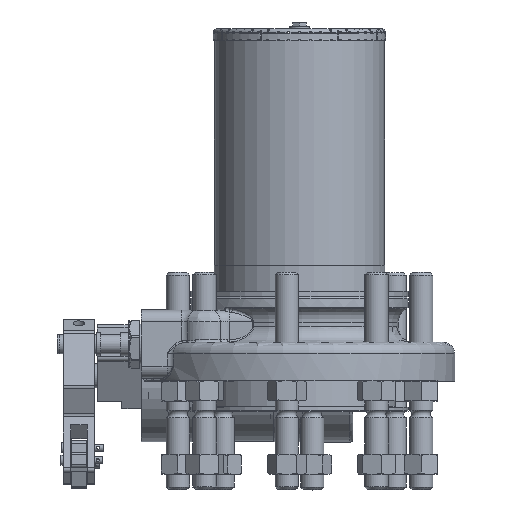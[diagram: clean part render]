
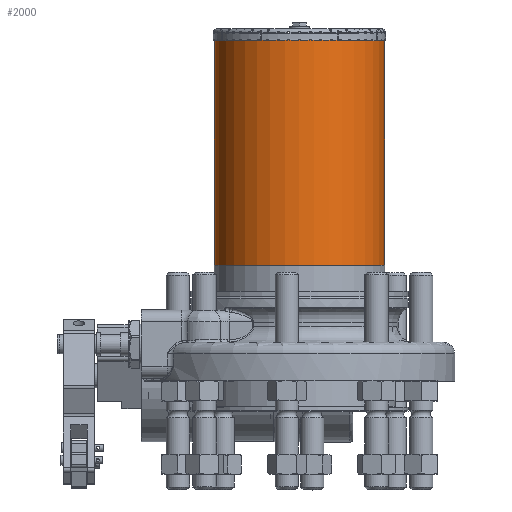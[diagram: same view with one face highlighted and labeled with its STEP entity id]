
A CAD part, top view. The second image highlights one B-rep face of the part: STEP entity #2000.
In plain terms, the highlighted cylindrical face has radius 69.647 mm (diameter 139.294 mm), a full revolution.
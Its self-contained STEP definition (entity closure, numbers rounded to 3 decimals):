
#382 = DIRECTION ( 'NONE',  ( 1., 0., 0. ) ) ;
#2000 = ADVANCED_FACE ( 'NONE', ( #52112, #82311 ), #14478, .T. ) ;
#7070 = DIRECTION ( 'NONE',  ( 1., 0., 0. ) ) ;
#12593 = CIRCLE ( 'NONE', #67973, 69.647 ) ;
#14478 = CYLINDRICAL_SURFACE ( 'NONE', #48466, 69.647 ) ;
#15579 = VERTEX_POINT ( 'NONE', #45788 ) ;
#23112 = ORIENTED_EDGE ( 'NONE', *, *, #52998, .T. ) ;
#29034 = EDGE_CURVE ( 'NONE', #30310, #30310, #76803, .T. ) ;
#30310 = VERTEX_POINT ( 'NONE', #60517 ) ;
#34223 = CARTESIAN_POINT ( 'NONE',  ( 0., 64.618, -26.594 ) ) ;
#38005 = CARTESIAN_POINT ( 'NONE',  ( 0., 254.076, -26.594 ) ) ;
#44705 = CARTESIAN_POINT ( 'NONE',  ( 0., 254.076, -26.594 ) ) ;
#45788 = CARTESIAN_POINT ( 'NONE',  ( 69.647, 64.618, -26.594 ) ) ;
#46779 = AXIS2_PLACEMENT_3D ( 'NONE', #38005, #68226, #382 ) ;
#48466 = AXIS2_PLACEMENT_3D ( 'NONE', #44705, #74878, #7070 ) ;
#48526 = EDGE_LOOP ( 'NONE', ( #23112 ) ) ;
#52112 = FACE_OUTER_BOUND ( 'NONE', #48526, .T. ) ;
#52998 = EDGE_CURVE ( 'NONE', #15579, #15579, #12593, .T. ) ;
#60517 = CARTESIAN_POINT ( 'NONE',  ( 69.647, 254.076, -26.594 ) ) ;
#62521 = ORIENTED_EDGE ( 'NONE', *, *, #29034, .T. ) ;
#64442 = DIRECTION ( 'NONE',  ( 0., 1., 0. ) ) ;
#67973 = AXIS2_PLACEMENT_3D ( 'NONE', #34223, #64442, #94611 ) ;
#68226 = DIRECTION ( 'NONE',  ( 0., -1., 0. ) ) ;
#74878 = DIRECTION ( 'NONE',  ( 0., -1., 0. ) ) ;
#76803 = CIRCLE ( 'NONE', #46779, 69.647 ) ;
#82311 = FACE_OUTER_BOUND ( 'NONE', #96861, .T. ) ;
#94611 = DIRECTION ( 'NONE',  ( 1., 0., 0. ) ) ;
#96861 = EDGE_LOOP ( 'NONE', ( #62521 ) ) ;
